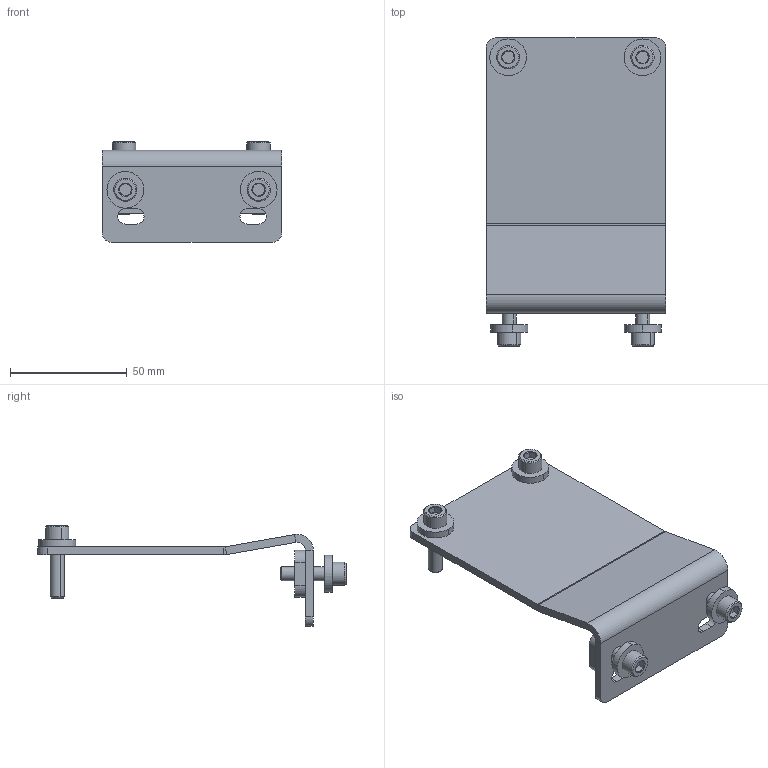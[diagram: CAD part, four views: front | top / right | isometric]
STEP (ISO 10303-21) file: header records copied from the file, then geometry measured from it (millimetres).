
FILE_DESCRIPTION((''),'2;1');
FILE_NAME('208449_ASM','2023-02-27T',('jenni.wallner'),(''),'PRO/ENGINEER BY PARAMETRIC TECHNOLOGY CORPORATION, 2012420','PRO/ENGINEER BY PARAMETRIC TECHNOLOGY CORPORATION, 2012420','');
FILE_SCHEMA(('CONFIG_CONTROL_DESIGN'));
Length unit declared in the file: inch
Products named in the file (7): 605279P; 9206XXM_920622M; 9206XXM_920625M; 208448; 208470; ASM0001_ASM; 208449_ASM
Assembly tree (11 placements, depth 3):
  208449_ASM
    ASM0001_ASM
      605279P  x4
      9206XXM_920622M  x2
      9206XXM_920625M  x2
      208448
      208470
Bounding box: 77 x 132.05 x 43.05 mm (x, y, z)
Volume: 51414.6 mm3; surface area: 34032.6 mm2
Topology: 10 solids, 10 shells, 192 faces, 426 edges, 262 vertices
Faces by surface type: plane 84, cylinder 64, cone 44
Entity records: 3936 total; most frequent: CARTESIAN_POINT 742, DIRECTION 698, ORIENTED_EDGE 584, EDGE_CURVE 292, AXIS2_PLACEMENT_3D 270, VERTEX_POINT 182, VECTOR 158, LINE 158
